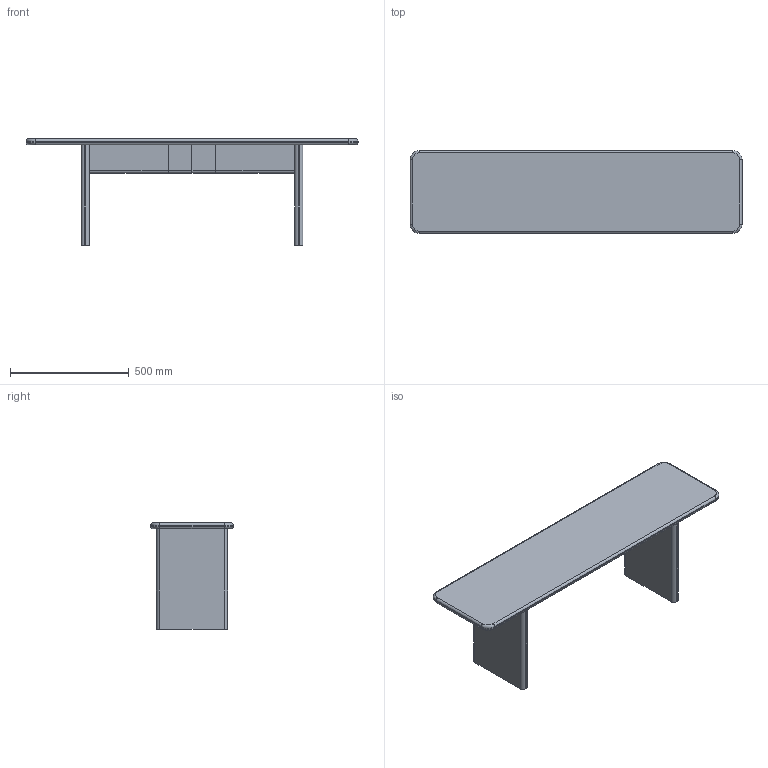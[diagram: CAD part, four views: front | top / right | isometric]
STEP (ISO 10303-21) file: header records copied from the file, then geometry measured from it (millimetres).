
FILE_DESCRIPTION(/* description */ (''),/* implementation_level */ '2;1');
FILE_NAME(/* name */ 'Rink_Bench_1400_Ferm Living_3D',/* time_stamp */ '2026-05-12T15:15:03+02:00',/* author */ (''),/* organization */ (''),/* preprocessor_version */ 'ST-DEVELOPER v19.2',/* originating_system */ 'Rhino 8.30',/* authorisation */ '');
FILE_SCHEMA (('CONFIG_CONTROL_DESIGN'));
Length unit declared in the file: millimetre
Products named in the file (1): Document
Bounding box: 1400 x 350 x 448 mm (x, y, z)
Volume: 23335848.8 mm3; surface area: 1966225.7 mm2
Topology: 24 solids, 24 shells, 602 faces, 1372 edges, 850 vertices
Faces by surface type: plane 242, bspline 220, cylinder 140
Entity records: 18484 total; most frequent: CARTESIAN_POINT 6838, ORIENTED_EDGE 2744, DIRECTION 1566, EDGE_CURVE 1372, AXIS2_PLACEMENT_3D 974, VERTEX_POINT 850, EDGE_LOOP 686, ADVANCED_FACE 602
